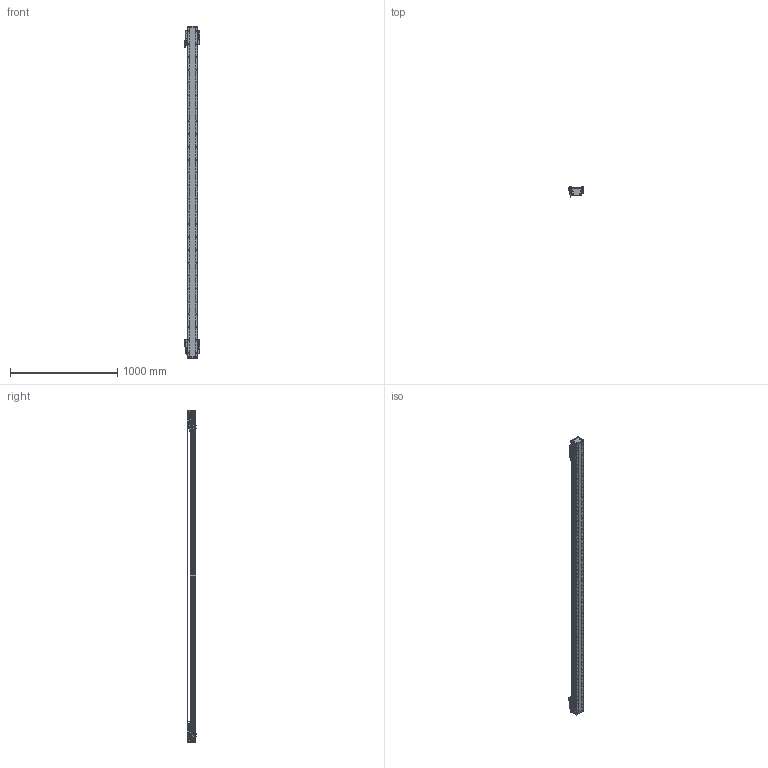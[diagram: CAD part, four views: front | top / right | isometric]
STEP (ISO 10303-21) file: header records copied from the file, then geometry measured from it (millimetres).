
FILE_DESCRIPTION (( 'STEP AP203' ), '1' );
FILE_NAME ('DA-B95-2-B15-T2720-C010-0.2 直线电机.STEP', '2023-05-06T06:42:19', ( '微软用户' ), ( '微软中国' ), 'SwSTEP 2.0', 'SolidWorks 2019', '' );
FILE_SCHEMA (( 'CONFIG_CONTROL_DESIGN' ));
Length unit declared in the file: millimetre
Products named in the file (34): 复件 DA95-B15-YB-B-00 压板B^66245-BU95-V 滚珠滑台; LMDK-2-R001-V5-L02-C1-F00，0.2M 读数头^DA-A95-B15-T-C010-0.2-N 直线电机_DMA-010-0.2; 66245-BU95-V-00 珨极趙賑雄怢啣; IU-BU95-L-00 菁釱_L3060; 复件 复件 18252-0001-002-00 钢带垫块^DA-A95-B15-T-C010-0.2-N 直线电机; 复件 66245-BU95-HT-V-01 滑动台板^66245-BU95-V-00 一体化滑动台板; B15 XD-U-02L ｴﾅﾕ､ｳﾟ^DA-A95-B15-T-C010-0.2-N ﾖｱﾏﾟｵ扈銈XD-U-02L; DA-A95-GYP-00 光电感应片^DA-A95-B15-T-C010-0.2-N 直线电机; 葩璃 DA95-GT-T-00^IU-BU95-L 菁釱絳寢_DA95; PM-T45 光电开关^DA-A95-B15-T-C010-0.2-N 直线电机; IU-BU95-L 菁釱絳寢; 复件 DA95-HK-GT-00 滑块钢轨^66245-BU95-V-00 一体化滑动台板; 66245-BU95-V 幗紩賑怢; 葩璃 BKMA01-W060-TRL^DA-A95-B15-T-C010-0.2-N 眻盄萇儂; 复件 纯铜油杯 6x6mm^66245-BU95-V 滚珠滑台; 复件 DA95-B15-YB-A-00 压板A^66245-BU95-V 滚珠滑台; 复件 六角薄螺母 M3^DA-A95-B15-T-C010-0.2-N 直线电机_GB_FASTENER_NUT_STNAB M3-C; 复件 DA95-MFP-01 密封片^66245-BU95-V 滚珠滑台; 复件 DKW-GYP-ZJ-00 中间光电感应片^DA-A95-B15-T-C010-0.2-N 直线电机; 葩璃 DA95-B15-DP--B-00 菜えB^66245-BU95-V 幗紩賑怢; 复件 DKW-HXJ-JY-00 缓冲橡胶^DA-A95-B15-T-C010-0.2-N 直线电机; DA-B95-2-B15-T2720-C010-0.2 眻盄萇儂; 葩璃 BKM015-W060-C1-TP-DA-0.2^DA-A95-B15-T-C010-0.2-N 眻盄萇儂; 复件 复件 18252-0001-003-00 钢带拉块^DA-A95-B15-T-C010-0.2-N 直线电机; 复件 DA95-DK-00 挡块^66245-BU95-V 滚珠滑台; 葩璃 DA95-B15-DP-A-00 菜えA^66245-BU95-V 幗紩賑怢; 复件 DA95-B15 钢带盖板^DA-A95-B15-T-C010-0.2-N 直线电机; 葩璃 PM-Y45^DA-A95-B15-T-C010-0.2-N 眻盄萇儂; 复件 DA95-DB-00  挡板^66245-BU95-V 滚珠滑台; DA95-HXJ-00 缓冲橡胶^DA-A95-B15-T-C010-0.2-N 直线电机; 复件 复件 18252-0001-004-00 钢带端盖^DA-A95-B15-T-C010-0.2-N 直线电机; 复件 DKW-KGZ-ZJ-00 中间光电开关支架^DA-A95-B15-T-C010-0.2-N 直线电机
Assembly tree (80 placements, depth 4):
  DA-B95-2-B15-T2720-C010-0.2 眻盄萇儂
    IU-BU95-L 菁釱絳寢
      IU-BU95-L-00 菁釱_L3060
      葩璃 DA95-GT-T-00^IU-BU95-L 菁釱絳寢_DA95  x2
    66245-BU95-V 幗紩賑怢
      66245-BU95-V-00 珨极趙賑雄怢啣
        复件 66245-BU95-HT-V-01 滑动台板^66245-BU95-V-00 一体化滑动台板
        复件 DA95-HK-GT-00 滑块钢轨^66245-BU95-V-00 一体化滑动台板  x2
      葩璃 DA95-B15-DP-A-00 菜えA^66245-BU95-V 幗紩賑怢
      复件 DA95-B15-YB-A-00 压板A^66245-BU95-V 滚珠滑台
      复件 DA95-B15-YB-B-00 压板B^66245-BU95-V 滚珠滑台
      复件 DA95-DB-00  挡板^66245-BU95-V 滚珠滑台  x4
      复件 DA95-DK-00 挡块^66245-BU95-V 滚珠滑台  x2
      复件 DA95-MFP-01 密封片^66245-BU95-V 滚珠滑台  x4
      复件 纯铜油杯 6x6mm^66245-BU95-V 滚珠滑台  x2
      葩璃 DA95-B15-DP--B-00 菜えB^66245-BU95-V 幗紩賑怢
    66245-BU95-V 幗紩賑怢
      66245-BU95-V-00 珨极趙賑雄怢啣
        复件 66245-BU95-HT-V-01 滑动台板^66245-BU95-V-00 一体化滑动台板
        复件 DA95-HK-GT-00 滑块钢轨^66245-BU95-V-00 一体化滑动台板  x2
      葩璃 DA95-B15-DP-A-00 菜えA^66245-BU95-V 幗紩賑怢
      复件 DA95-B15-YB-A-00 压板A^66245-BU95-V 滚珠滑台
      复件 DA95-B15-YB-B-00 压板B^66245-BU95-V 滚珠滑台
      复件 DA95-DB-00  挡板^66245-BU95-V 滚珠滑台  x4
      复件 DA95-DK-00 挡块^66245-BU95-V 滚珠滑台  x2
      复件 DA95-MFP-01 密封片^66245-BU95-V 滚珠滑台  x4
      复件 纯铜油杯 6x6mm^66245-BU95-V 滚珠滑台  x2
      葩璃 DA95-B15-DP--B-00 菜えB^66245-BU95-V 幗紩賑怢
    DA-A95-GYP-00 光电感应片^DA-A95-B15-T-C010-0.2-N 直线电机  x2
    LMDK-2-R001-V5-L02-C1-F00，0.2M 读数头^DA-A95-B15-T-C010-0.2-N 直线电机_DMA-010-0.2  x2
    复件 DKW-KGZ-ZJ-00 中间光电开关支架^DA-A95-B15-T-C010-0.2-N 直线电机
    葩璃 PM-Y45^DA-A95-B15-T-C010-0.2-N 眻盄萇儂
    复件 DKW-GYP-ZJ-00 中间光电感应片^DA-A95-B15-T-C010-0.2-N 直线电机
    葩璃 BKM015-W060-C1-TP-DA-0.2^DA-A95-B15-T-C010-0.2-N 眻盄萇儂  x2
    复件 DKW-HXJ-JY-00 缓冲橡胶^DA-A95-B15-T-C010-0.2-N 直线电机  x2
    PM-T45 光电开关^DA-A95-B15-T-C010-0.2-N 直线电机  x4
    B15 XD-U-02L ｴﾅﾕ､ｳﾟ^DA-A95-B15-T-C010-0.2-N ﾖｱﾏﾟｵ扈銈XD-U-02L
    复件 复件 18252-0001-003-00 钢带拉块^DA-A95-B15-T-C010-0.2-N 直线电机  x2
    复件 复件 18252-0001-002-00 钢带垫块^DA-A95-B15-T-C010-0.2-N 直线电机  x2
    复件 复件 18252-0001-004-00 钢带端盖^DA-A95-B15-T-C010-0.2-N 直线电机  x2
    复件 DA95-B15 钢带盖板^DA-A95-B15-T-C010-0.2-N 直线电机
    DA95-HXJ-00 缓冲橡胶^DA-A95-B15-T-C010-0.2-N 直线电机  x4
    葩璃 BKMA01-W060-TRL^DA-A95-B15-T-C010-0.2-N 眻盄萇儂
    复件 六角薄螺母 M3^DA-A95-B15-T-C010-0.2-N 直线电机_GB_FASTENER_NUT_STNAB M3-C  x6
Bounding box: 145.4 x 90.2 x 3096 mm (x, y, z)
Volume: 9780320.9 mm3; surface area: 3262561.7 mm2
Topology: 75 solids, 93 shells, 4444 faces, 12724 edges, 8095 vertices
Faces by surface type: cylinder 2341, plane 1571, cone 464, torus 64, sphere 4
Entity records: 113390 total; most frequent: CARTESIAN_POINT 30744, ORIENTED_EDGE 16806, DIRECTION 16026, EDGE_CURVE 8403, AXIS2_PLACEMENT_3D 6121, VERTEX_POINT 5497, LINE 3784, VECTOR 3784
